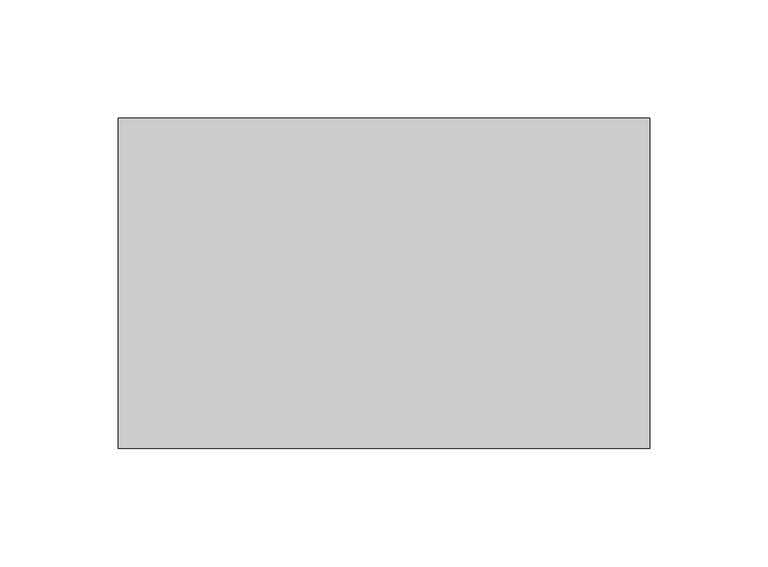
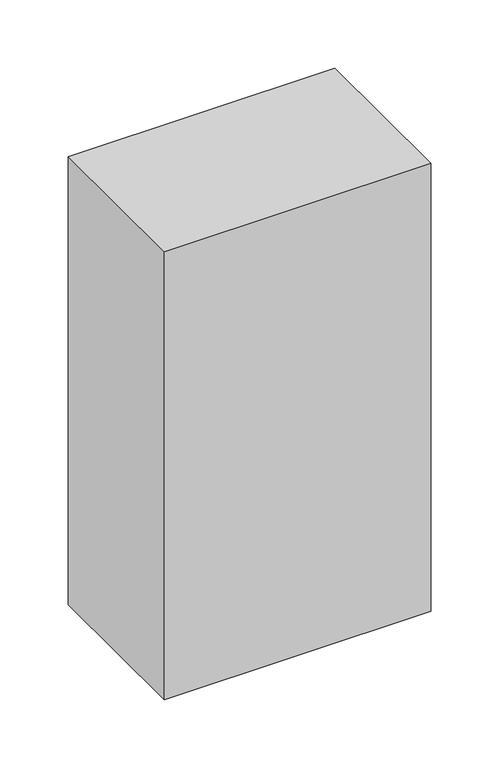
"""IFC4 building model written with IfcOpenShell, lengths in millimetres: proxy geometry."""

from ifc_helpers import new_model, si_unit, frame, origin, place, context, project, spatial, polyline, outline, extrude, source, transform, mapped, element, save


def structural_framing_f22c1f19(model_context):
    return source(origin(), model_context, "Body", "SweptSolid", [
        extrude(outline(polyline([(112.55, 70.0), (112.55, -70.0), (-112.55, -70.0), (-112.55, 70.0), (112.55, 70.0)])), frame((0.0, 0.0, -400.0), z_axis=(0.0, 0.0, 1.0), x_axis=(1.0, 0.0, 0.0)), (0.0, 0.0, 1.0), 400.0),
    ])


if __name__ == "__main__":
    model = new_model("IFC4")
    model_context = context("Model", 3, world=origin())
    ifc_project = project(units=[si_unit("LENGTHUNIT", "METRE", prefix="MILLI")], contexts=[model_context])
    site = spatial("IfcSite", under=ifc_project)
    building = spatial("IfcBuilding", under=site)
    placement = place(None, origin())
    structural_framing_shape = structural_framing_f22c1f19(model_context)
    element("IfcBuildingElementProxy", 1, Name="Structural Framing", at=placement, inside=building, context=model_context, shape_type="MappedRepresentation", body=[
        mapped(structural_framing_shape, transform((0.0, 0.0, 0.0), x_axis=(1.0, 0.0, 0.0), y_axis=(0.0, 1.0, 0.0), z_axis=(0.0, 0.0, 1.0))),
    ])
    save(model, "model.ifc")
